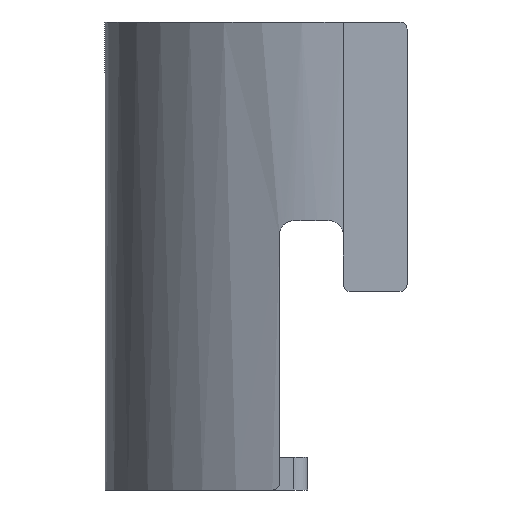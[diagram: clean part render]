
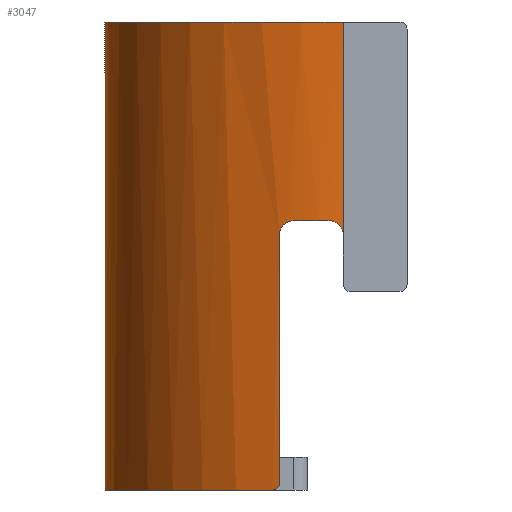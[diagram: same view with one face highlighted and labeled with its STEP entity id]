
A CAD part, left-side view. The second image highlights one B-rep face of the part: STEP entity #3047.
In plain terms, the highlighted cylindrical face has radius 16.8 mm (diameter 33.6 mm), a partial arc.
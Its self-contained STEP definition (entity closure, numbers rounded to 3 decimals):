
#38 = CARTESIAN_POINT ( 'NONE',  ( -34.39, 4.111, 2.303 ) ) ;
#75 = CARTESIAN_POINT ( 'NONE',  ( -18.1, 0., -16.5 ) ) ;
#119 = VERTEX_POINT ( 'NONE', #182 ) ;
#182 = CARTESIAN_POINT ( 'NONE',  ( -34.87, 1., 2.5 ) ) ;
#321 = ORIENTED_EDGE ( 'NONE', *, *, #3494, .T. ) ;
#332 = CARTESIAN_POINT ( 'NONE',  ( -34.9, 0., 16.5 ) ) ;
#365 = VERTEX_POINT ( 'NONE', #1578 ) ;
#372 = CARTESIAN_POINT ( 'NONE',  ( -34.286, 4.5, -16.135 ) ) ;
#387 = CARTESIAN_POINT ( 'NONE',  ( -34.9, 0., 1.5 ) ) ;
#458 = DIRECTION ( 'NONE',  ( 0., 0., 1. ) ) ;
#471 = CARTESIAN_POINT ( 'NONE',  ( -34.9, 0., 1.5 ) ) ;
#535 = CIRCLE ( 'NONE', #3602, 16.8 ) ;
#626 = FACE_OUTER_BOUND ( 'NONE', #2874, .T. ) ;
#653 = EDGE_CURVE ( 'NONE', #1002, #119, #1533, .T. ) ;
#682 = ORIENTED_EDGE ( 'NONE', *, *, #1173, .T. ) ;
#683 = CARTESIAN_POINT ( 'NONE',  ( -5.167, 10.723, -16.5 ) ) ;
#701 = DIRECTION ( 'NONE',  ( 0., 0., 1. ) ) ;
#809 = LINE ( 'NONE', #2579, #1910 ) ;
#839 = VERTEX_POINT ( 'NONE', #900 ) ;
#900 = CARTESIAN_POINT ( 'NONE',  ( -34.286, 4.5, -16. ) ) ;
#957 = VERTEX_POINT ( 'NONE', #4056 ) ;
#975 = AXIS2_PLACEMENT_3D ( 'NONE', #1042, #701, #3527 ) ;
#987 = CARTESIAN_POINT ( 'NONE',  ( -34.531, 3.5, 2.5 ) ) ;
#1002 = VERTEX_POINT ( 'NONE', #987 ) ;
#1042 = CARTESIAN_POINT ( 'NONE',  ( -18.1, 0., 16.5 ) ) ;
#1173 = EDGE_CURVE ( 'NONE', #839, #365, #809, .T. ) ;
#1316 = CARTESIAN_POINT ( 'NONE',  ( -34.503, 3.631, 2.5 ) ) ;
#1392 = ORIENTED_EDGE ( 'NONE', *, *, #4071, .T. ) ;
#1407 = CARTESIAN_POINT ( 'NONE',  ( -34.294, 4.473, 1.766 ) ) ;
#1411 = CARTESIAN_POINT ( 'NONE',  ( -18.1, 0., 2.5 ) ) ;
#1445 = CARTESIAN_POINT ( 'NONE',  ( -34.896, 0.386, 2.3 ) ) ;
#1463 = CARTESIAN_POINT ( 'NONE',  ( -34.878, 0.868, 2.5 ) ) ;
#1472 = VERTEX_POINT ( 'NONE', #3204 ) ;
#1533 = CIRCLE ( 'NONE', #1980, 16.8 ) ;
#1578 = CARTESIAN_POINT ( 'NONE',  ( -34.286, 4.5, 1.5 ) ) ;
#1605 = CARTESIAN_POINT ( 'NONE',  ( -34.179, 4.871, -16.5 ) ) ;
#1636 = B_SPLINE_CURVE_WITH_KNOTS ( 'NONE', 3,
 ( #3798, #1605, #1908, #2246, #372, #3499 ),
 .UNSPECIFIED., .F., .F.,
 ( 4, 2, 4 ),
 ( 0., 0., 0.001 ),
 .UNSPECIFIED. ) ;
#1660 = DIRECTION ( 'NONE',  ( 0., 0., 1. ) ) ;
#1701 = LINE ( 'NONE', #2530, #2089 ) ;
#1733 = CARTESIAN_POINT ( 'NONE',  ( -34.9, 0., 1.764 ) ) ;
#1815 = B_SPLINE_CURVE_WITH_KNOTS ( 'NONE', 3,
 ( #3809, #2225, #1407, #3472, #2532, #38, #2233, #3168, #1316, #3579 ),
 .UNSPECIFIED., .F., .F.,
 ( 4, 2, 2, 2, 4 ),
 ( 0., 0., 0.001, 0.001, 0.002 ),
 .UNSPECIFIED. ) ;
#1908 = CARTESIAN_POINT ( 'NONE',  ( -34.217, 4.744, -16.449 ) ) ;
#1910 = VECTOR ( 'NONE', #3874, 1000. ) ;
#1944 = ORIENTED_EDGE ( 'NONE', *, *, #3636, .T. ) ;
#1980 = AXIS2_PLACEMENT_3D ( 'NONE', #1411, #458, #3554 ) ;
#2089 = VECTOR ( 'NONE', #3735, 1000. ) ;
#2092 = AXIS2_PLACEMENT_3D ( 'NONE', #3653, #3015, #3043 ) ;
#2143 = ORIENTED_EDGE ( 'NONE', *, *, #3419, .F. ) ;
#2225 = CARTESIAN_POINT ( 'NONE',  ( -34.286, 4.5, 1.634 ) ) ;
#2233 = CARTESIAN_POINT ( 'NONE',  ( -34.417, 3.999, 2.376 ) ) ;
#2246 = CARTESIAN_POINT ( 'NONE',  ( -34.27, 4.557, -16.266 ) ) ;
#2261 = VERTEX_POINT ( 'NONE', #2971 ) ;
#2335 = CARTESIAN_POINT ( 'NONE',  ( -34.893, 0.497, 2.374 ) ) ;
#2483 = ORIENTED_EDGE ( 'NONE', *, *, #2911, .T. ) ;
#2518 = CIRCLE ( 'NONE', #975, 16.8 ) ;
#2530 = CARTESIAN_POINT ( 'NONE',  ( -5.167, 10.723, 16.5 ) ) ;
#2532 = CARTESIAN_POINT ( 'NONE',  ( -34.342, 4.295, 2.12 ) ) ;
#2579 = CARTESIAN_POINT ( 'NONE',  ( -34.286, 4.5, 16.5 ) ) ;
#2642 = EDGE_CURVE ( 'NONE', #1472, #3243, #1701, .T. ) ;
#2681 = CARTESIAN_POINT ( 'NONE',  ( -34.87, 1., 2.5 ) ) ;
#2689 = CARTESIAN_POINT ( 'NONE',  ( -34.884, 0.739, 2.474 ) ) ;
#2741 = EDGE_CURVE ( 'NONE', #1472, #2261, #2518, .T. ) ;
#2835 = ORIENTED_EDGE ( 'NONE', *, *, #653, .T. ) ;
#2874 = EDGE_LOOP ( 'NONE', ( #1392, #321, #682, #1944, #2835, #2483, #2143, #2931, #3225 ) ) ;
#2897 = DIRECTION ( 'NONE',  ( 1., 0., 0. ) ) ;
#2911 = EDGE_CURVE ( 'NONE', #119, #3239, #3252, .T. ) ;
#2931 = ORIENTED_EDGE ( 'NONE', *, *, #2741, .F. ) ;
#2951 = CARTESIAN_POINT ( 'NONE',  ( -34.901, 0.109, 2.023 ) ) ;
#2971 = CARTESIAN_POINT ( 'NONE',  ( -34.9, 0., 16.5 ) ) ;
#3015 = DIRECTION ( 'NONE',  ( 0., 0., -1. ) ) ;
#3043 = DIRECTION ( 'NONE',  ( -1., 0., 0. ) ) ;
#3047 = ADVANCED_FACE ( 'NONE', ( #626 ), #3840, .T. ) ;
#3168 = CARTESIAN_POINT ( 'NONE',  ( -34.474, 3.761, 2.474 ) ) ;
#3204 = CARTESIAN_POINT ( 'NONE',  ( -5.167, 10.723, 16.5 ) ) ;
#3225 = ORIENTED_EDGE ( 'NONE', *, *, #2642, .T. ) ;
#3239 = VERTEX_POINT ( 'NONE', #387 ) ;
#3243 = VERTEX_POINT ( 'NONE', #683 ) ;
#3252 = B_SPLINE_CURVE_WITH_KNOTS ( 'NONE', 3,
 ( #2681, #1463, #2689, #2335, #1445, #2951, #1733, #471 ),
 .UNSPECIFIED., .F., .F.,
 ( 4, 2, 2, 4 ),
 ( 0., 0., 0.001, 0.002 ),
 .UNSPECIFIED. ) ;
#3343 = LINE ( 'NONE', #332, #3389 ) ;
#3389 = VECTOR ( 'NONE', #4062, 1000. ) ;
#3419 = EDGE_CURVE ( 'NONE', #2261, #3239, #3343, .T. ) ;
#3472 = CARTESIAN_POINT ( 'NONE',  ( -34.322, 4.371, 2.009 ) ) ;
#3494 = EDGE_CURVE ( 'NONE', #957, #839, #1636, .T. ) ;
#3499 = CARTESIAN_POINT ( 'NONE',  ( -34.286, 4.5, -16. ) ) ;
#3527 = DIRECTION ( 'NONE',  ( 1., 0., 0. ) ) ;
#3554 = DIRECTION ( 'NONE',  ( 1., 0., 0. ) ) ;
#3579 = CARTESIAN_POINT ( 'NONE',  ( -34.531, 3.5, 2.5 ) ) ;
#3602 = AXIS2_PLACEMENT_3D ( 'NONE', #75, #1660, #2897 ) ;
#3636 = EDGE_CURVE ( 'NONE', #365, #1002, #1815, .T. ) ;
#3653 = CARTESIAN_POINT ( 'NONE',  ( -18.1, 0., 16.5 ) ) ;
#3735 = DIRECTION ( 'NONE',  ( 0., 0., -1. ) ) ;
#3798 = CARTESIAN_POINT ( 'NONE',  ( -34.139, 5., -16.5 ) ) ;
#3809 = CARTESIAN_POINT ( 'NONE',  ( -34.286, 4.5, 1.5 ) ) ;
#3840 = CYLINDRICAL_SURFACE ( 'NONE', #2092, 16.8 ) ;
#3874 = DIRECTION ( 'NONE',  ( 0., 0., 1. ) ) ;
#4056 = CARTESIAN_POINT ( 'NONE',  ( -34.139, 5., -16.5 ) ) ;
#4062 = DIRECTION ( 'NONE',  ( 0., 0., -1. ) ) ;
#4071 = EDGE_CURVE ( 'NONE', #3243, #957, #535, .T. ) ;
